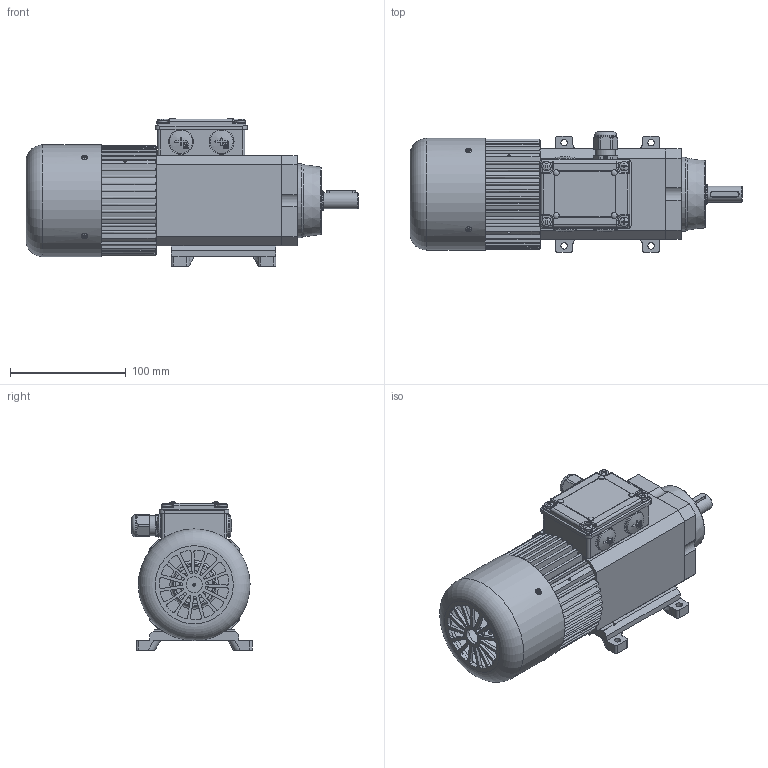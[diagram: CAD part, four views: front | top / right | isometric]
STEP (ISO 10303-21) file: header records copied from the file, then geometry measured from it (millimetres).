
FILE_DESCRIPTION(/* description */ (''),/* implementation_level */ '2;1');
FILE_NAME(/* name */ 'C:\Users\giuseppe.caruso.MINIMOTOR\Desktop\PA...M2 B3.stp',/* time_stamp */ '2014-09-02T11:07:00+02:00',/* author */ ('giuseppe.caruso'),/* organization */ (''),/* preprocessor_version */ 'ST-DEVELOPER v15.6',/* originating_system */ 'Autodesk Inventor 2015',/* authorisation */ '');
FILE_SCHEMA (('AUTOMOTIVE_DESIGN { 1 0 10303 214 3 1 1 }'));
Length unit declared in the file: millimetre
Products named in the file (37): ASF047; ASA017; VSE516; VTC410S; RIV014I; RST004; VTC406; VTC306; CHI005; VCE518; SPN010; VAF311; VSP002; TPP001; BOC001; CUS017-9; CUS017-8; CUS017-6; CUS017-5; CUS017-4; CUS017-3; CUS017-2; CUS017-1; CUS017; ING224; SRD020; RAD017A; CPV020; CPR011; GRN012; CPB005A-4F; TRG064; CPM005A; TRG001; PIE010; TPP009; PA 260M2T 10,27 B3
Bounding box: 286.5 x 103.8 x 128.17 mm (x, y, z)
Volume: 674764 mm3; surface area: 314386 mm2
Topology: 56 solids, 56 shells, 3408 faces, 9268 edges, 6057 vertices
Faces by surface type: cylinder 1531, plane 1417, cone 286, torus 103, bspline 44, sphere 27
Full cylindrical faces by diameter (mm): 1.6 x1, 1.7 x2, 2.3 x2, 2.459 x4, 2.5 x2, 2.7 x8, 2.729 x4, 2.9 x4, 3 x14, 3.242 x14, 3.25 x4, 3.4 x4, 3.8 x4, 4 x12, 4.134 x9, 4.3 x1, 4.5 x4, 5 x11, 5.1 x4, 5.3 x1, 5.5 x20, 6.647 x1, 6.8 x4, 7.6 x1, 8 x5, 8.5 x10, 9 x4, 9.64 x3, 10 x7, 11 x3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
Entity records: 99183 total; most frequent: CARTESIAN_POINT 28590, ORIENTED_EDGE 14978, DIRECTION 13368, EDGE_CURVE 7489, VERTEX_POINT 5071, AXIS2_PLACEMENT_3D 5066, EDGE_LOOP 3380, LINE 3236
